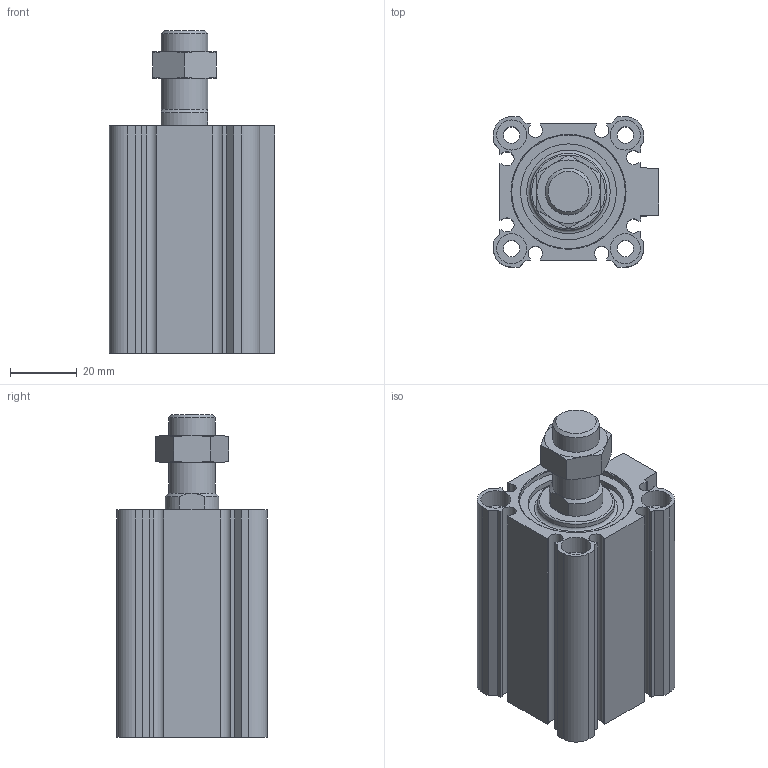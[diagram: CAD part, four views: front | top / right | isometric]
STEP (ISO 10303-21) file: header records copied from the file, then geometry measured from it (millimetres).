
FILE_DESCRIPTION( ( 'STEP AP214' ), '1' );
FILE_NAME( 'C:/Users/emc02044/Desktop/SQN SQN big size/SQN32X35-S-M.stp', '2026-07-29T01:45:47', ( 'License CC BY-ND 4.0' ), ( 'CADENAS' ), ' ', 'PARTsolutions', ' ' );
FILE_SCHEMA( ( 'AUTOMOTIVE_DESIGN { 1 0 10303 214 1 1 1 1 }' ) );
Length unit declared in the file: millimetre
Products named in the file (3): SQN32X35-S-M; _SQ32X35-S(0) ()_body; _SQ32X35-S-M(rod-0)
Assembly tree (2 placements, depth 2):
  SQN32X35-S-M
    _SQ32X35-S(0) ()_body
    _SQ32X35-S-M(rod-0)
Bounding box: 49.5 x 45 x 96.5 mm (x, y, z)
Volume: 93254.2 mm3; surface area: 41242.1 mm2
Topology: 2 solids, 2 shells, 157 faces, 355 edges, 229 vertices
Faces by surface type: plane 89, cylinder 44, cone 22, torus 2
Full cylindrical faces by diameter (mm): 4.917 x8, 5.5 x4, 8.566 x2, 9 x8, 14 x2, 16 x2, 23 x1, 28.7 x1, 32 x3, 34 x1
Entity records: 5560 total; most frequent: CARTESIAN_POINT 844, DIRECTION 716, ORIENTED_EDGE 620, EDGE_CURVE 310, AXIS2_PLACEMENT_3D 274, EDGE_LOOP 234, VERTEX_POINT 226, FACE_OUTER_BOUND 191
